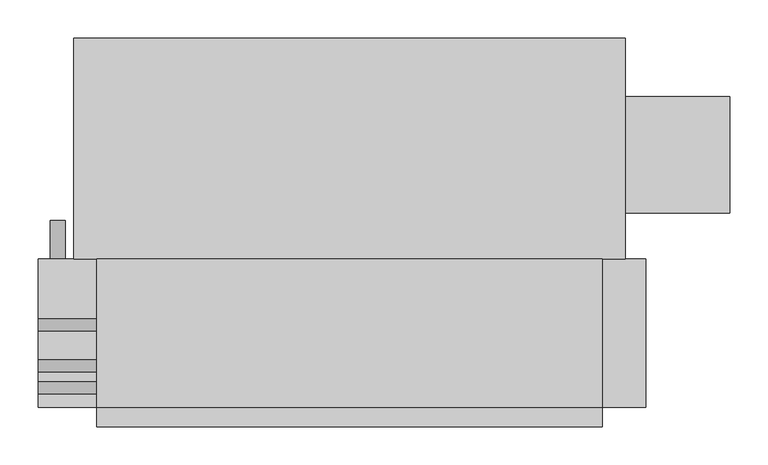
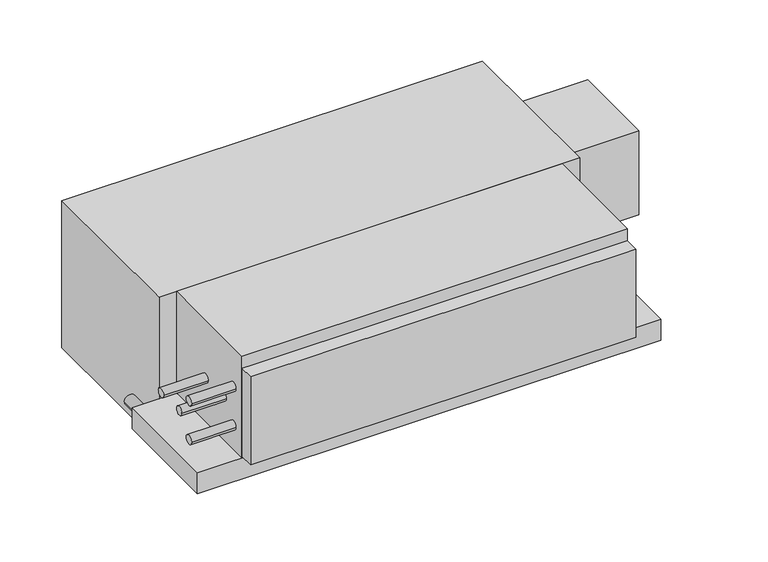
"""IFC4 building model written with IfcOpenShell, lengths in millimetres: proxy geometry, Concealed_Horizontal_Fan_Coil_Unit_With_Plenum_-_42CEA_-_CARRIER_-_4-Pipe_LH_2022 : Size 04 - 277v/60Hz/1Ph - 4/1 Coil."""

from ifc_helpers import new_model, si_unit, point, frame, frame_2d, origin, place, context, project, spatial, polyline, circle_curve, trimmed, segment, composite_curve, outline, extrude, source, transform, mapped, element, save


def mechanical_equipment_8f8ee0ab(model_context):
    return source(origin(), model_context, "Body", "SweptSolid", [
        extrude(outline(composite_curve([segment(trimmed(circle_curve(frame_2d((-209.55, -228.6)), 9.525), [point((-209.55, -238.125))], [point((-209.55, -219.075))], False, "CARTESIAN"), True, "CONTINUOUS"), segment(trimmed(circle_curve(frame_2d((-209.55, -228.6)), 9.525), [point((-209.55, -219.075))], [point((-209.55, -238.125))], False, "CARTESIAN"), True, "CONTINUOUS")], self_intersect=False)), frame((0.0, -141.2875, 0.0), z_axis=(0.0, 1.0, 0.0), x_axis=(0.0, 0.0, 1.0)), (0.0, 0.0, 1.0), 50.8),
        extrude(outline(composite_curve([segment(trimmed(circle_curve(frame_2d((-309.5625, -69.85)), 7.9375), [point((-301.625, -69.85))], [point((-317.5, -69.85))], False, "CARTESIAN"), True, "CONTINUOUS"), segment(trimmed(circle_curve(frame_2d((-309.5625, -69.85)), 7.9375), [point((-317.5, -69.85))], [point((-301.625, -69.85))], False, "CARTESIAN"), True, "CONTINUOUS")], self_intersect=False)), frame((-254.0, 0.0, 0.0), z_axis=(1.0, 0.0, 0.0), x_axis=(0.0, 1.0, 0.0)), (0.0, 0.0, 1.0), 76.2),
        extrude(outline(composite_curve([segment(trimmed(circle_curve(frame_2d((-309.5625, -139.7)), 7.9375), [point((-301.625, -139.7))], [point((-317.5, -139.7))], False, "CARTESIAN"), True, "CONTINUOUS"), segment(trimmed(circle_curve(frame_2d((-309.5625, -139.7)), 7.9375), [point((-317.5, -139.7))], [point((-301.625, -139.7))], False, "CARTESIAN"), True, "CONTINUOUS")], self_intersect=False)), frame((-254.0, 0.0, 0.0), z_axis=(1.0, 0.0, 0.0), x_axis=(0.0, 1.0, 0.0)), (0.0, 0.0, 1.0), 76.2),
        extrude(outline(composite_curve([segment(trimmed(circle_curve(frame_2d((-227.0125, -104.775)), 7.9375), [point((-219.075, -104.775))], [point((-234.95, -104.775))], False, "CARTESIAN"), True, "CONTINUOUS"), segment(trimmed(circle_curve(frame_2d((-227.0125, -104.775)), 7.9375), [point((-234.95, -104.775))], [point((-219.075, -104.775))], False, "CARTESIAN"), True, "CONTINUOUS")], self_intersect=False)), frame((-254.0, 0.0, 0.0), z_axis=(1.0, 0.0, 0.0), x_axis=(0.0, 1.0, 0.0)), (0.0, 0.0, 1.0), 76.2),
        extrude(outline(composite_curve([segment(trimmed(circle_curve(frame_2d((-280.9875, -104.775)), 7.9375), [point((-273.05, -104.775))], [point((-288.925, -104.775))], False, "CARTESIAN"), True, "CONTINUOUS"), segment(trimmed(circle_curve(frame_2d((-280.9875, -104.775)), 7.9375), [point((-288.925, -104.775))], [point((-273.05, -104.775))], False, "CARTESIAN"), True, "CONTINUOUS")], self_intersect=False)), frame((-254.0, 0.0, 0.0), z_axis=(1.0, 0.0, 0.0), x_axis=(0.0, 1.0, 0.0)), (0.0, 0.0, 1.0), 76.2),
        extrude(outline(polyline([(482.6, -334.9625), (482.6, -360.3625), (-177.8, -360.3625), (-177.8, -334.9625), (482.6, -334.9625)])), frame((0.0, 0.0, -180.975), z_axis=(0.0, 0.0, 1.0), x_axis=(1.0, 0.0, 0.0)), (0.0, 0.0, 1.0), 158.75),
        extrude(outline(polyline([(482.6, -334.9625), (-177.8, -334.9625), (-177.8, -141.2875), (482.6, -141.2875), (482.6, -334.9625)])), frame((0.0, 0.0, -184.15), z_axis=(0.0, 0.0, 1.0), x_axis=(1.0, 0.0, 0.0)), (0.0, 0.0, 1.0), 184.15),
        extrude(outline(polyline([(539.75, -141.2875), (539.75, -334.9625), (-254.0, -334.9625), (-254.0, -141.2875), (539.75, -141.2875)])), frame((0.0, 0.0, -222.25), z_axis=(0.0, 0.0, 1.0), x_axis=(1.0, 0.0, 0.0)), (0.0, 0.0, 1.0), 38.1),
        extrude(outline(polyline([(649.2875, 71.4375), (649.2875, -80.9625), (512.7625, -80.9625), (512.7625, 71.4375), (649.2875, 71.4375)])), frame((0.0, 0.0, -187.325), z_axis=(0.0, 0.0, 1.0), x_axis=(1.0, 0.0, 0.0)), (0.0, 0.0, 1.0), 152.4),
        extrude(outline(polyline([(-207.9625, 147.6375), (512.7625, 147.6375), (512.7625, -141.2875), (-207.9625, -141.2875), (-207.9625, 147.6375)])), frame((0.0, 0.0, -266.7), z_axis=(0.0, 0.0, 1.0), x_axis=(1.0, 0.0, 0.0)), (0.0, 0.0, 1.0), 266.7),
    ])


if __name__ == "__main__":
    model = new_model("IFC4")
    model_context = context("Model", 3, world=origin())
    ifc_project = project(units=[si_unit("LENGTHUNIT", "METRE", prefix="MILLI")], contexts=[model_context])
    site = spatial("IfcSite", under=ifc_project)
    building = spatial("IfcBuilding", under=site)
    placement = place(None, origin())
    mechanical_equipment_shape = mechanical_equipment_8f8ee0ab(model_context)
    element("IfcBuildingElementProxy", 1, Name="Concealed_Horizontal_Fan_Coil_Unit_With_Plenum_-_42CEA_-_CARRIER_-_4-Pipe_LH_2022 : Size 04 - 277v/60Hz/1Ph - 4/1 Coil", ObjectType="Concealed_Horizontal_Fan_Coil_Unit_With_Plenum_-_42CEA_-_CARRIER_-_4-Pipe_LH_2022 : Size 04 - 277v/60Hz/1Ph - 4/1 Coil", at=placement, inside=building, context=model_context, shape_type="MappedRepresentation", body=[
        mapped(mechanical_equipment_shape, transform((0.0, 0.0, 0.0), x_axis=(1.0, 0.0, 0.0), y_axis=(0.0, 1.0, 0.0), z_axis=(0.0, 0.0, 1.0))),
    ])
    save(model, "model.ifc")
